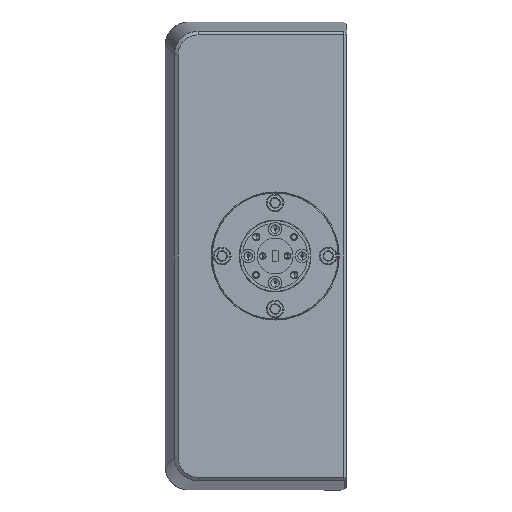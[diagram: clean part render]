
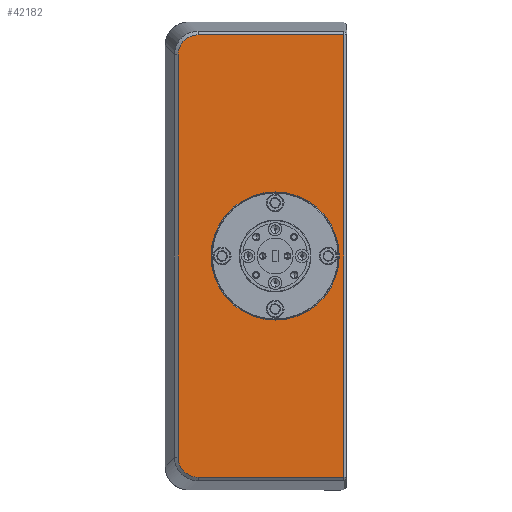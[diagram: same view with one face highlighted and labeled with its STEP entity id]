
A CAD part, left-side view. The second image highlights one B-rep face of the part: STEP entity #42182.
In plain terms, the highlighted planar face has unit normal (-1, 0, 0).
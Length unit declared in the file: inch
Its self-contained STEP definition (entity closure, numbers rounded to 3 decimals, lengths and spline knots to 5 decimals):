
#686 = B_SPLINE_CURVE_WITH_KNOTS ( 'NONE', 3,
 ( #66106, #38498, #24855, #18532, #60214, #52442, #4577, #53350, #23988, #32128 ),
 .UNSPECIFIED., .F., .F.,
 ( 4, 2, 2, 2, 4 ),
 ( 0., 0.25, 0.5, 0.75, 1. ),
 .UNSPECIFIED. ) ;
#1382 = CIRCLE ( 'NONE', #2843, 0.67 ) ;
#2527 = CARTESIAN_POINT ( 'NONE',  ( -2.75, 4.70722, 2.30689 ) ) ;
#2843 = AXIS2_PLACEMENT_3D ( 'NONE', #29060, #84342, #22257 ) ;
#3370 = DIRECTION ( 'NONE',  ( 0., 1., 0. ) ) ;
#4288 = CARTESIAN_POINT ( 'NONE',  ( -2.75, 4.81943, 2.2321 ) ) ;
#4577 = CARTESIAN_POINT ( 'NONE',  ( -2.75, 4.75769, -2.28609 ) ) ;
#5813 = FACE_OUTER_BOUND ( 'NONE', #46390, .T. ) ;
#7020 = CARTESIAN_POINT ( 'NONE',  ( -2.75, 3.84607, 0. ) ) ;
#8939 = CARTESIAN_POINT ( 'NONE',  ( -2.75, 4.04607, 0. ) ) ;
#9496 = VECTOR ( 'NONE', #3370, 39.37008 ) ;
#10869 = VECTOR ( 'NONE', #48180, 39.37008 ) ;
#11075 = CARTESIAN_POINT ( 'NONE',  ( -2.75, 4.67972, 2.31233 ) ) ;
#11734 = ORIENTED_EDGE ( 'NONE', *, *, #11987, .T. ) ;
#11987 = EDGE_CURVE ( 'NONE', #51650, #30832, #71295, .T. ) ;
#13121 = DIRECTION ( 'NONE',  ( 0., -1., 0. ) ) ;
#14076 = CARTESIAN_POINT ( 'NONE',  ( -2.75, 4.86115, 2.13095 ) ) ;
#17764 = CARTESIAN_POINT ( 'NONE',  ( -2.75, 4.65223, 2.31232 ) ) ;
#18532 = CARTESIAN_POINT ( 'NONE',  ( -2.75, 4.83492, -2.20886 ) ) ;
#18713 = B_SPLINE_CURVE_WITH_KNOTS ( 'NONE', 3,
 ( #17764, #11075, #2527, #38648, #30054, #4288, #31834, #87101, #14076, #73986 ),
 .UNSPECIFIED., .F., .F.,
 ( 4, 2, 2, 2, 4 ),
 ( 0., 0.25, 0.5, 0.75, 1. ),
 .UNSPECIFIED. ) ;
#19108 = ORIENTED_EDGE ( 'NONE', *, *, #73224, .T. ) ;
#20263 = ORIENTED_EDGE ( 'NONE', *, *, #35366, .F. ) ;
#20543 = LINE ( 'NONE', #21008, #10869 ) ;
#21008 = CARTESIAN_POINT ( 'NONE',  ( -2.75, 4.86115, 0. ) ) ;
#22211 = EDGE_CURVE ( 'NONE', #24300, #73970, #45694, .T. ) ;
#22257 = DIRECTION ( 'NONE',  ( 0., 0., 1. ) ) ;
#23321 = DIRECTION ( 'NONE',  ( 1., 0., 0. ) ) ;
#23988 = CARTESIAN_POINT ( 'NONE',  ( -2.75, 4.67977, -2.31233 ) ) ;
#24300 = VERTEX_POINT ( 'NONE', #80065 ) ;
#24311 = CARTESIAN_POINT ( 'NONE',  ( -2.75, 3.12607, 2.31232 ) ) ;
#24855 = CARTESIAN_POINT ( 'NONE',  ( -2.75, 4.85571, -2.15839 ) ) ;
#27477 = LINE ( 'NONE', #55135, #69012 ) ;
#29060 = CARTESIAN_POINT ( 'NONE',  ( -2.75, 3.84607, 0. ) ) ;
#29568 = DIRECTION ( 'NONE',  ( -1., 0., 0. ) ) ;
#30054 = CARTESIAN_POINT ( 'NONE',  ( -2.75, 4.78092, 2.2706 ) ) ;
#30832 = VERTEX_POINT ( 'NONE', #83048 ) ;
#31834 = CARTESIAN_POINT ( 'NONE',  ( -2.75, 4.83491, 2.20886 ) ) ;
#32128 = CARTESIAN_POINT ( 'NONE',  ( -2.75, 4.65223, -2.31232 ) ) ;
#32658 = EDGE_LOOP ( 'NONE', ( #45136, #20263 ) ) ;
#34322 = DIRECTION ( 'NONE',  ( 0., 0., 1. ) ) ;
#35366 = EDGE_CURVE ( 'NONE', #73970, #24300, #1382, .T. ) ;
#36518 = DIRECTION ( 'NONE',  ( 0., 0., -1. ) ) ;
#38498 = CARTESIAN_POINT ( 'NONE',  ( -2.75, 4.86115, -2.13089 ) ) ;
#38648 = CARTESIAN_POINT ( 'NONE',  ( -2.75, 4.75769, 2.28609 ) ) ;
#42182 = ADVANCED_FACE ( 'NONE', ( #5813, #61002 ), #88586, .F. ) ;
#45136 = ORIENTED_EDGE ( 'NONE', *, *, #22211, .F. ) ;
#45593 = ORIENTED_EDGE ( 'NONE', *, *, #53169, .T. ) ;
#45694 = CIRCLE ( 'NONE', #68849, 0.67 ) ;
#46390 = EDGE_LOOP ( 'NONE', ( #79613, #19108, #87851, #11734, #69829, #45593 ) ) ;
#47478 = LINE ( 'NONE', #75180, #79423 ) ;
#48180 = DIRECTION ( 'NONE',  ( 0., 0., -1. ) ) ;
#48544 = AXIS2_PLACEMENT_3D ( 'NONE', #8939, #23321, #36518 ) ;
#50403 = CARTESIAN_POINT ( 'NONE',  ( -2.75, 4.04607, 2.31232 ) ) ;
#51650 = VERTEX_POINT ( 'NONE', #24311 ) ;
#52159 = CARTESIAN_POINT ( 'NONE',  ( -2.75, 4.65223, -2.31232 ) ) ;
#52442 = CARTESIAN_POINT ( 'NONE',  ( -2.75, 4.78093, -2.27061 ) ) ;
#53169 = EDGE_CURVE ( 'NONE', #81954, #68958, #20543, .T. ) ;
#53350 = CARTESIAN_POINT ( 'NONE',  ( -2.75, 4.70722, -2.30689 ) ) ;
#53871 = CARTESIAN_POINT ( 'NONE',  ( -2.75, 4.86115, 2.1034 ) ) ;
#54668 = CARTESIAN_POINT ( 'NONE',  ( -2.75, 3.12607, -2.31232 ) ) ;
#55024 = EDGE_CURVE ( 'NONE', #88534, #51650, #27477, .T. ) ;
#55135 = CARTESIAN_POINT ( 'NONE',  ( -2.75, 3.12607, 0. ) ) ;
#57103 = CARTESIAN_POINT ( 'NONE',  ( -2.75, 3.84607, -0.67 ) ) ;
#60214 = CARTESIAN_POINT ( 'NONE',  ( -2.75, 4.81943, -2.2321 ) ) ;
#61002 = FACE_BOUND ( 'NONE', #32658, .T. ) ;
#65150 = CARTESIAN_POINT ( 'NONE',  ( -2.75, 4.86115, -2.1034 ) ) ;
#66057 = VERTEX_POINT ( 'NONE', #52159 ) ;
#66106 = CARTESIAN_POINT ( 'NONE',  ( -2.75, 4.86115, -2.1034 ) ) ;
#68849 = AXIS2_PLACEMENT_3D ( 'NONE', #7020, #29568, #69019 ) ;
#68958 = VERTEX_POINT ( 'NONE', #65150 ) ;
#69012 = VECTOR ( 'NONE', #34322, 39.37008 ) ;
#69019 = DIRECTION ( 'NONE',  ( 0., 0., 1. ) ) ;
#69829 = ORIENTED_EDGE ( 'NONE', *, *, #76179, .T. ) ;
#71295 = LINE ( 'NONE', #50403, #9496 ) ;
#73224 = EDGE_CURVE ( 'NONE', #66057, #88534, #47478, .T. ) ;
#73970 = VERTEX_POINT ( 'NONE', #57103 ) ;
#73986 = CARTESIAN_POINT ( 'NONE',  ( -2.75, 4.86115, 2.1034 ) ) ;
#74034 = EDGE_CURVE ( 'NONE', #68958, #66057, #686, .T. ) ;
#75180 = CARTESIAN_POINT ( 'NONE',  ( -2.75, 4.04607, -2.31232 ) ) ;
#76179 = EDGE_CURVE ( 'NONE', #30832, #81954, #18713, .T. ) ;
#79423 = VECTOR ( 'NONE', #13121, 39.37008 ) ;
#79613 = ORIENTED_EDGE ( 'NONE', *, *, #74034, .T. ) ;
#80065 = CARTESIAN_POINT ( 'NONE',  ( -2.75, 3.84607, 0.67 ) ) ;
#81954 = VERTEX_POINT ( 'NONE', #53871 ) ;
#83048 = CARTESIAN_POINT ( 'NONE',  ( -2.75, 4.65223, 2.31232 ) ) ;
#84342 = DIRECTION ( 'NONE',  ( -1., 0., 0. ) ) ;
#87101 = CARTESIAN_POINT ( 'NONE',  ( -2.75, 4.85572, 2.15839 ) ) ;
#87851 = ORIENTED_EDGE ( 'NONE', *, *, #55024, .T. ) ;
#88534 = VERTEX_POINT ( 'NONE', #54668 ) ;
#88586 = PLANE ( 'NONE',  #48544 ) ;
